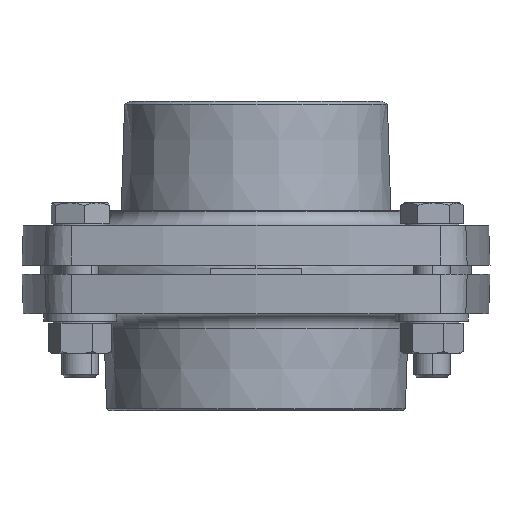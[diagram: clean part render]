
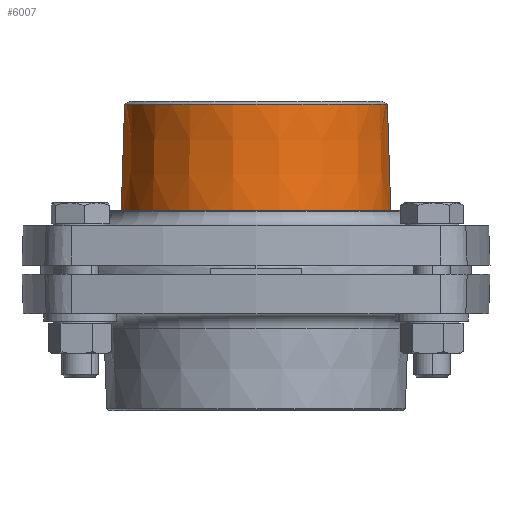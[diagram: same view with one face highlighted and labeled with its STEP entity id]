
A CAD part, front view. The second image highlights one B-rep face of the part: STEP entity #6007.
In plain terms, the highlighted conical face has half-angle 1.788 degrees and reference radius 44.421 mm.
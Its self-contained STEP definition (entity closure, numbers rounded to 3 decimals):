
#324 = VERTEX_POINT ( 'NONE', #5771 ) ;
#325 = VERTEX_POINT ( 'NONE', #5772 ) ;
#326 = VERTEX_POINT ( 'NONE', #5773 ) ;
#327 = VERTEX_POINT ( 'NONE', #5774 ) ;
#396 = EDGE_LOOP ( 'NONE', ( #13293, #13294, #13295, #13296 ) ) ;
#989 = EDGE_CURVE ( 'NONE', #326, #327, #4836, .T. ) ;
#1002 = EDGE_CURVE ( 'NONE', #325, #324, #4850, .T. ) ;
#2681 = CARTESIAN_POINT ( 'NONE',  ( 4.064, -1.472, 13.293 ) ) ;
#2683 = DIRECTION ( 'NONE',  ( 0.031, 0., -1. ) ) ;
#4836 = CIRCLE ( 'NONE', #6695, 43.328 ) ;
#4850 = CIRCLE ( 'NONE', #6706, 44.421 ) ;
#5235 = CARTESIAN_POINT ( 'NONE',  ( -40.357, -1.472, 48.294 ) ) ;
#5236 = DIRECTION ( 'NONE',  ( 0., 0., -1. ) ) ;
#5237 = DIRECTION ( 'NONE',  ( 1., 0., 0. ) ) ;
#5275 = CARTESIAN_POINT ( 'NONE',  ( -40.357, -1.472, 13.293 ) ) ;
#5276 = DIRECTION ( 'NONE',  ( 0., 0., -1. ) ) ;
#5277 = DIRECTION ( 'NONE',  ( -1., 0., 0. ) ) ;
#5771 = CARTESIAN_POINT ( 'NONE',  ( -84.778, -1.472, 13.293 ) ) ;
#5772 = CARTESIAN_POINT ( 'NONE',  ( 4.064, -1.472, 13.293 ) ) ;
#5773 = CARTESIAN_POINT ( 'NONE',  ( 2.971, -1.472, 48.294 ) ) ;
#5774 = CARTESIAN_POINT ( 'NONE',  ( -83.685, -1.472, 48.294 ) ) ;
#6007 = ADVANCED_FACE ( 'NONE', ( #13499 ), #13508, .T. ) ;
#6695 = AXIS2_PLACEMENT_3D ( 'NONE', #5235, #5236, #5237 ) ;
#6706 = AXIS2_PLACEMENT_3D ( 'NONE', #5275, #5276, #5277 ) ;
#11475 = CARTESIAN_POINT ( 'NONE',  ( -40.357, -1.472, 13.293 ) ) ;
#11476 = DIRECTION ( 'NONE',  ( 0., 0., -1. ) ) ;
#11484 = DIRECTION ( 'NONE',  ( -1., 0., 0. ) ) ;
#12123 = DIRECTION ( 'NONE',  ( -0.031, 0., -1. ) ) ;
#12136 = CARTESIAN_POINT ( 'NONE',  ( -84.778, -1.472, 13.293 ) ) ;
#13293 = ORIENTED_EDGE ( 'NONE', *, *, #15857, .F. ) ;
#13294 = ORIENTED_EDGE ( 'NONE', *, *, #989, .T. ) ;
#13295 = ORIENTED_EDGE ( 'NONE', *, *, #15844, .T. ) ;
#13296 = ORIENTED_EDGE ( 'NONE', *, *, #1002, .F. ) ;
#13499 = FACE_OUTER_BOUND ( 'NONE', #396, .T. ) ;
#13508 = CONICAL_SURFACE ( 'NONE', #14836, 44.421, 0.031 ) ;
#13721 = LINE ( 'NONE', #12136, #13724 ) ;
#13724 = VECTOR ( 'NONE', #12123, 1000. ) ;
#13743 = LINE ( 'NONE', #2681, #13746 ) ;
#13746 = VECTOR ( 'NONE', #2683, 1000. ) ;
#14836 = AXIS2_PLACEMENT_3D ( 'NONE', #11475, #11476, #11484 ) ;
#15844 = EDGE_CURVE ( 'NONE', #327, #324, #13721, .T. ) ;
#15857 = EDGE_CURVE ( 'NONE', #326, #325, #13743, .T. ) ;
